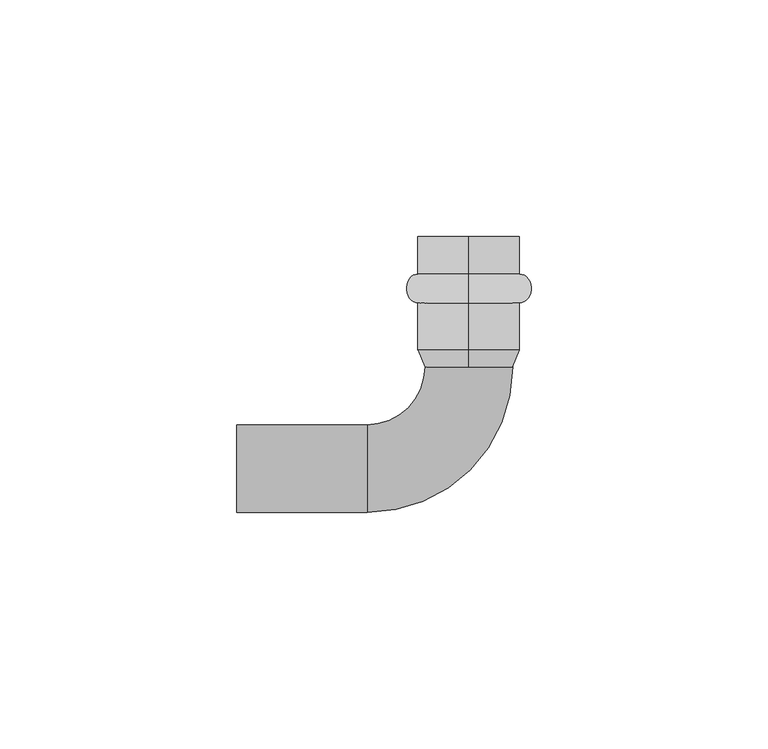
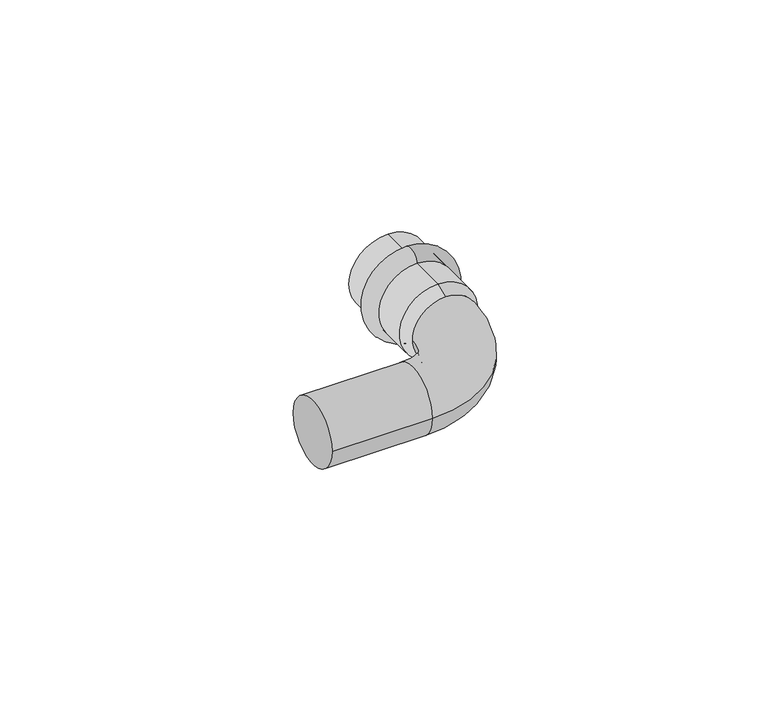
"""IFC4 building model written with IfcOpenShell, lengths in millimetres: pipe fitting geometry, РЕХАУ_Пресс Отвод-вставка : 18 x 90°."""

import ifcopenshell
import ifcopenshell.guid

model = None  # the IFC model being written
_history = None  # IfcOwnerHistory: only IFC2X3 demands one
_inside = {}  # id of a spatial element -> (the spatial element, [elements in it])
_under = {}  # id of a project, library or spatial element -> (it, [spatial elements below it])
_declared = {}  # id of a project -> (the project, [libraries it declares])
_typed = {}  # id of a type object -> (the type object, [elements of that type])
_made_of = {}  # id of a material, layer set ... -> (it, [elements and type objects made of it])


def new_model(schema):
    """Start an empty IFC model of exactly this schema.

    Asked for "IFC4X3", IfcOpenShell would pick the latest addendum, in which some entities
    have other attributes; the version numbers below select the first issue.
    IFC2X3 requires an IfcOwnerHistory on every rooted entity: one is made here for all.
    """
    global model, _history
    if schema == "IFC4X3":
        model = ifcopenshell.file(schema_version=(4, 3, 0, 0))
    else:
        model = ifcopenshell.file(schema=schema)
    _inside.clear()
    _under.clear()
    _declared.clear()
    _typed.clear()
    _made_of.clear()
    _history = None
    if model.schema == "IFC2X3":
        org = make("IfcOrganization", Name="unknown")
        user = make(
            "IfcPersonAndOrganization",
            ThePerson=make("IfcPerson", FamilyName="unknown"),
            TheOrganization=org,
        )
        app = make(
            "IfcApplication",
            ApplicationDeveloper=org,
            Version="unknown",
            ApplicationFullName="unknown",
            ApplicationIdentifier="unknown",
        )
        _history = make(
            "IfcOwnerHistory",
            OwningUser=user,
            OwningApplication=app,
            ChangeAction="ADDED",
            CreationDate=0,
        )
    return model


def make(cls, **values):
    """One entity of the class cls with the attributes given. An attribute that is None is left unset."""
    return model.create_entity(
        cls, **{name: value for name, value in values.items() if value is not None}
    )


def rooted(cls, **values):
    """An entity with a GlobalId (a new one), such as an element, a storey or a relation."""
    return make(cls, GlobalId=ifcopenshell.guid.new(), OwnerHistory=_history, **values)


def si_unit(unit_type, name, prefix=None):
    """IfcSIUnit, for example si_unit("LENGTHUNIT", "METRE", prefix="MILLI")."""
    return make("IfcSIUnit", UnitType=unit_type, Prefix=prefix, Name=name)


def assignment(units):
    """IfcUnitAssignment: the units of a project."""
    return None if units is None else make("IfcUnitAssignment", Units=units)


def point(xyz):
    """IfcCartesianPoint."""
    return None if xyz is None else make("IfcCartesianPoint", Coordinates=xyz)


def direction(xyz):
    """IfcDirection."""
    return None if xyz is None else make("IfcDirection", DirectionRatios=xyz)


def frame(location, z_axis=None, x_axis=None):
    """IfcAxis2Placement3D, a coordinate frame: its origin and axes. An axis left out is left unset."""
    return make(
        "IfcAxis2Placement3D",
        Location=point(location),
        Axis=direction(z_axis),
        RefDirection=direction(x_axis),
    )


def origin():
    """The frame at (0, 0, 0) with its axes left unset."""
    return frame((0.0, 0.0, 0.0))


def place(relative_to, where):
    """IfcLocalPlacement: puts the frame where relative to a parent placement (None: the world)."""
    return make(
        "IfcLocalPlacement", PlacementRelTo=relative_to, RelativePlacement=where
    )


def context(
    kind, dimensions, precision=None, world=None, true_north=None, identifier=None
):
    """IfcGeometricRepresentationContext, for example the 3D "Model" context."""
    return make(
        "IfcGeometricRepresentationContext",
        ContextIdentifier=identifier,
        ContextType=kind,
        CoordinateSpaceDimension=dimensions,
        Precision=precision,
        WorldCoordinateSystem=world,
        TrueNorth=true_north,
    )


def project(units=None, contexts=None):
    """IfcProject with its units and contexts."""
    return rooted(
        "IfcProject",
        Name="project",
        RepresentationContexts=contexts,
        UnitsInContext=assignment(units),
    )


def spatial(cls, under=None, at=None, **own):
    """A site, building, storey or space (cls), placed at a placement, below another one or the project."""
    s = rooted(cls, ObjectPlacement=at, **own)
    if under is not None:
        _under.setdefault(under.id(), (under, []))[1].append(s)
    return s


def polyline(points):
    """IfcPolyline through the points."""
    return make("IfcPolyline", Points=[point(p) for p in points])


def circle_curve(where, radius):
    """IfcCircle in the frame where."""
    return make("IfcCircle", Position=where, Radius=radius)


def ellipse_curve(where, semi_axis1, semi_axis2):
    """IfcEllipse in the frame where."""
    return make(
        "IfcEllipse", Position=where, SemiAxis1=semi_axis1, SemiAxis2=semi_axis2
    )


def trimmed(basis, trim1, trim2, sense, master):
    """IfcTrimmedCurve: the piece of a basis curve between two trims."""
    return make(
        "IfcTrimmedCurve",
        BasisCurve=basis,
        Trim1=trim1,
        Trim2=trim2,
        SenseAgreement=sense,
        MasterRepresentation=master,
    )


def shape(context_of_items, identifier, shape_type, items):
    """IfcShapeRepresentation: the items that make up one representation, for example the "Body"."""
    return make(
        "IfcShapeRepresentation",
        ContextOfItems=context_of_items,
        RepresentationIdentifier=identifier,
        RepresentationType=shape_type,
        Items=items,
    )


def source(mapping_origin, context_of_items, identifier, shape_type, items):
    """IfcRepresentationMap: a shape defined once, which mapped items show again and again."""
    return make(
        "IfcRepresentationMap",
        MappingOrigin=mapping_origin,
        MappedRepresentation=shape(context_of_items, identifier, shape_type, items),
    )


def transform(
    local_origin,
    x_axis=None,
    y_axis=None,
    z_axis=None,
    scale=None,
    scale2=None,
    scale3=None,
    uniform=True,
):
    """IfcCartesianTransformationOperator3D, or its non-uniform kind. x_axis, y_axis, z_axis: its Axis1, 2, 3."""
    if uniform:
        return make(
            "IfcCartesianTransformationOperator3D",
            Axis1=direction(x_axis),
            Axis2=direction(y_axis),
            LocalOrigin=point(local_origin),
            Scale=scale,
            Axis3=direction(z_axis),
        )
    return make(
        "IfcCartesianTransformationOperator3DnonUniform",
        Axis1=direction(x_axis),
        Axis2=direction(y_axis),
        LocalOrigin=point(local_origin),
        Scale=scale,
        Axis3=direction(z_axis),
        Scale2=scale2,
        Scale3=scale3,
    )


def mapped(mapping_source, mapping_target):
    """IfcMappedItem: shows the shape of a source again, moved by a transform."""
    return make(
        "IfcMappedItem", MappingSource=mapping_source, MappingTarget=mapping_target
    )


def made_of(thing, what):
    """Note that an element or type object is made of a material, layer set ...; save() writes the relation."""
    if what is not None:
        _made_of.setdefault(what.id(), (what, []))[1].append(thing)
    return thing


def element(
    cls,
    number,
    at=None,
    inside=None,
    cuts=None,
    type_object=None,
    material=None,
    context=None,
    identifier="Body",
    shape_type=None,
    held_by="IfcProductDefinitionShape",
    body=None,
    shapes=None,
    **own,
):
    """One element of the class cls, such as IfcWall. Its Tag is "e" and its number.

    at: its placement. inside: the storey or other place that contains it. cuts: it is an
    opening in that element (IfcRelVoidsElement). A single representation is given by context,
    identifier, shape_type and body (its items); several are given by shapes. held_by: the class
    of the entity that holds the representations. save() writes the other relations.
    """
    e = rooted(cls, Tag="e%d" % number, ObjectPlacement=at, **own)
    if body is not None:
        shapes = [shape(context, identifier, shape_type, body)]
    if shapes is not None:
        e.Representation = make(held_by, Representations=shapes)
    if inside is not None:
        _inside.setdefault(inside.id(), (inside, []))[1].append(e)
    if cuts is not None:
        rooted(
            "IfcRelVoidsElement", RelatingBuildingElement=cuts, RelatedOpeningElement=e
        )
    if type_object is not None:
        _typed.setdefault(type_object.id(), (type_object, []))[1].append(e)
    return made_of(e, material)


def aggregate(whole, parts):
    """IfcRelAggregates: a whole, such as a stair, and the parts it consists of."""
    return rooted("IfcRelAggregates", RelatingObject=whole, RelatedObjects=parts)


def save(model, path):
    """Write the relations noted so far, then the file.

    IfcRelAggregates (storeys below a building ...), IfcRelContainedInSpatialStructure (elements
    in a storey), IfcRelDefinesByType, IfcRelAssociatesMaterial and IfcRelDeclares: one each for
    every whole, place, type object, material and project.
    """
    for whole, parts in _under.values():
        aggregate(whole, parts)
    for where, things in _inside.values():
        rooted(
            "IfcRelContainedInSpatialStructure",
            RelatedElements=things,
            RelatingStructure=where,
        )
    for kind, things in _typed.values():
        rooted("IfcRelDefinesByType", RelatedObjects=things, RelatingType=kind)
    for what, things in _made_of.values():
        rooted("IfcRelAssociatesMaterial", RelatedObjects=things, RelatingMaterial=what)
    for by, libraries in _declared.values():
        rooted("IfcRelDeclares", RelatingContext=by, RelatedDefinitions=libraries)
    model.write(path)


def plane_surface(at):
    """IfcPlane: the flat surface through the origin of the frame at, square to its z axis."""
    return make("IfcPlane", Position=at)


def cylinder_surface(at, radius):
    """IfcCylindricalSurface: all points at the distance radius from the z axis of the frame at."""
    return make("IfcCylindricalSurface", Position=at, Radius=radius)


def revolved_surface(curve, axis_point, axis_direction):
    """IfcSurfaceOfRevolution: the curve turned about the line through axis_point along axis_direction."""
    return make(
        "IfcSurfaceOfRevolution",
        SweptCurve=make("IfcArbitraryOpenProfileDef", ProfileType="CURVE", Curve=curve),
        AxisPosition=make("IfcAxis1Placement", Location=point(axis_point), Axis=direction(axis_direction)),
    )


def advanced_brep(points, edges, surfaces, faces):
    """IfcAdvancedBrep: a solid bounded by faces that lie on surfaces and meet in shared edges.

    An edge is (start, end): straight between two places in points (the first is 0);
    or (start, end, curve); or (start, end, curve, False) where it runs against its curve.
    A face is (place in surfaces, loops), or (place, loops, False) where it looks against
    its surface's normal. A loop lists edges by number (the first is 1), with a minus sign
    where the edge is run from its end to its start. The first loop is the outer one.
    """
    corners = [point(p) for p in points]
    vertices = [make("IfcVertexPoint", VertexGeometry=c) for c in corners]
    made = []
    for start, end, *more in edges:
        made.append(
            make(
                "IfcEdgeCurve",
                EdgeStart=vertices[start],
                EdgeEnd=vertices[end],
                EdgeGeometry=more[0] if more else make("IfcPolyline", Points=[corners[start], corners[end]]),
                SameSense=more[1] if len(more) > 1 else True,
            )
        )
    hull = []
    for where, loops, *sense in faces:
        bounds = []
        for j, loop in enumerate(loops):
            ring = [make("IfcOrientedEdge", EdgeElement=made[abs(k) - 1], Orientation=k > 0) for k in loop]
            bounds.append(
                make(
                    "IfcFaceOuterBound" if j == 0 else "IfcFaceBound",
                    Bound=make("IfcEdgeLoop", EdgeList=ring),
                    Orientation=True,
                )
            )
        hull.append(make("IfcAdvancedFace", Bounds=bounds, FaceSurface=surfaces[where], SameSense=sense[0] if sense else True))
    return make("IfcAdvancedBrep", Outer=make("IfcClosedShell", CfsFaces=hull))


def pipe_fitting_5858ae5b(model_context):
    return source(origin(), model_context, "Body", "AdvancedBrep", [
        advanced_brep(
        [(49.0, 41.1, 10.75), (49.0, 41.1, -10.75), (49.0, 35.0, -10.75), (49.0, 35.0, 10.75)],
        [
            (0, 1, circle_curve(frame((49.0, 41.1, 0.0), z_axis=(0.0, 1.0, 0.0), x_axis=(0.0, 0.0, -1.0)), 10.75)),
            (1, 2),
            (2, 3, circle_curve(frame((49.0, 35.0, 0.0), z_axis=(0.0, -1.0, 0.0), x_axis=(0.0, 0.0, -1.0)), 10.75)),
            (3, 0),
            (1, 0, circle_curve(frame((49.0, 41.1, 0.0), z_axis=(0.0, 1.0, 0.0), x_axis=(0.0, 0.0, -1.0)), 10.75)),
            (3, 2, circle_curve(frame((49.0, 35.0, 0.0), z_axis=(0.0, -1.0, 0.0), x_axis=(0.0, 0.0, -1.0)), 10.75)),
            (2, 1, ellipse_curve(frame((49.0, 38.05, -10.75), z_axis=(1.0, 0.0, 0.0), x_axis=(0.0, 1.0, 0.0)), 3.05, 2.5)),
            (0, 3, ellipse_curve(frame((49.0, 38.05, 10.75), z_axis=(1.0, 0.0, 0.0), x_axis=(0.0, 1.0, 0.0)), 3.05, 2.5)),
        ],
        [
            revolved_surface(polyline([(49.0, 35.0, -10.75), (49.0, 41.1, -10.75)]), (49.0, 22.0, 0.0), (0.0, -1.0, 0.0)),
            revolved_surface(trimmed(ellipse_curve(frame((49.0, 38.05, -10.75), z_axis=(-1.0, 0.0, 0.0), x_axis=(0.0, 1.0, 0.0)), 3.05, 2.5), [point((49.0, 41.1, -10.75))], [point((49.0, 35.0, -10.75))], True, "CARTESIAN"), (49.0, 22.0, 0.0), (0.0, -1.0, 0.0)),
        ],
        [
            (0, [[1, 2, 3, 4]]),
            (0, [[5, -4, 6, -2]]),
            (1, [[-3, 7, -1, 8]]),
            (1, [[-6, -8, -5, -7]]),
        ],
    ),
        advanced_brep(
        [(49.0, 21.4662215, 9.25), (49.0, 21.4662215, -9.25), (49.0, 25.0, -10.75), (49.0, 25.0, 10.75), (49.0, 49.0, 9.25), (49.0, 49.0, -9.25), (49.0, 49.0, 10.75), (49.0, 49.0, -10.75)],
        [
            (0, 1, circle_curve(frame((49.0, 21.4662215, 0.0), z_axis=(0.0, 1.0, 0.0), x_axis=(0.0, 0.0, -1.0)), 9.25)),
            (1, 2),
            (2, 3, circle_curve(frame((49.0, 25.0, 0.0), z_axis=(0.0, -1.0, 0.0), x_axis=(0.0, 0.0, -1.0)), 10.75)),
            (3, 0),
            (1, 0, circle_curve(frame((49.0, 21.4662215, 0.0), z_axis=(0.0, 1.0, 0.0), x_axis=(0.0, 0.0, -1.0)), 9.25)),
            (3, 2, circle_curve(frame((49.0, 25.0, 0.0), z_axis=(0.0, -1.0, 0.0), x_axis=(0.0, 0.0, -1.0)), 10.75)),
            (4, 5, circle_curve(frame((49.0, 49.0, 0.0), z_axis=(0.0, 1.0, 0.0), x_axis=(0.0, 0.0, -1.0)), 9.25)),
            (5, 1),
            (0, 4),
            (5, 4, circle_curve(frame((49.0, 49.0, 0.0), z_axis=(0.0, 1.0, 0.0), x_axis=(0.0, 0.0, -1.0)), 9.25)),
            (6, 7, circle_curve(frame((49.0, 49.0, 0.0), z_axis=(0.0, 1.0, 0.0), x_axis=(0.0, 0.0, -1.0)), 10.75)),
            (7, 5),
            (4, 6),
            (7, 6, circle_curve(frame((49.0, 49.0, 0.0), z_axis=(0.0, 1.0, 0.0), x_axis=(0.0, 0.0, -1.0)), 10.75)),
            (2, 7),
            (6, 3),
        ],
        [
            revolved_surface(polyline([(49.0, 25.0, -10.75), (49.0, 21.4662215, -9.25)]), (49.0, 22.0, 0.0), (0.0, -1.0, 0.0)),
            revolved_surface(polyline([(49.0, 21.4662215, -9.25), (49.0, 49.0, -9.25)]), (49.0, 22.0, 0.0), (0.0, -1.0, 0.0)),
            plane_surface(frame((49.0, 49.0, 0.0), z_axis=(0.0, 1.0, 0.0), x_axis=(0.0, 0.0, -1.0))),
            cylinder_surface(frame((49.0, 22.0, 0.0), z_axis=(0.0, -1.0, 0.0), x_axis=(0.0, 0.0, -1.0)), 10.75),
        ],
        [
            (0, [[1, 2, 3, 4]]),
            (0, [[5, -4, 6, -2]]),
            (1, [[7, 8, -1, 9]]),
            (1, [[10, -9, -5, -8]]),
            (2, [[11, 12, -7, 13]]),
            (2, [[14, -13, -10, -12]]),
            (3, [[-3, 15, -11, 16]]),
            (3, [[-6, -16, -14, -15]]),
        ],
    ),
        advanced_brep(
        [(0.0, -9.25, 0.0), (0.0, 9.25, 0.0), (27.5337785, -9.25, 0.0), (27.5337785, 9.25, 0.0), (39.75, 21.4662215, 0.0), (58.25, 21.4662215, 0.0), (58.25, 25.0, 0.0), (39.75, 25.0, 0.0)],
        [
            (0, 1, circle_curve(frame((0.0, 0.0, 0.0), z_axis=(-1.0, 0.0, 0.0), x_axis=(0.0, 1.0, 0.0)), 9.25)),
            (1, 0, circle_curve(frame((0.0, 0.0, 0.0), z_axis=(-1.0, 0.0, 0.0), x_axis=(0.0, 1.0, 0.0)), 9.25)),
            (0, 2),
            (2, 3, circle_curve(frame((27.5337785, 0.0, 0.0), z_axis=(-1.0, 0.0, 0.0), x_axis=(0.0, 1.0, 0.0)), 9.25)),
            (3, 1),
            (3, 2, circle_curve(frame((27.5337785, 0.0, 0.0), z_axis=(-1.0, 0.0, 0.0), x_axis=(0.0, 1.0, 0.0)), 9.25)),
            (4, 3, circle_curve(frame((27.5337785, 21.4662215, 0.0), z_axis=(0.0, 0.0, -1.0), x_axis=(0.0, -1.0, 0.0)), 12.2162215)),
            (2, 5, circle_curve(frame((27.5337785, 21.4662215, 0.0), z_axis=(0.0, 0.0, 1.0), x_axis=(0.0, -1.0, 0.0)), 30.7162215)),
            (5, 4, circle_curve(frame((49.0, 21.4662215, 0.0), z_axis=(0.0, -1.0, 0.0), x_axis=(-1.0, 0.0, 0.0)), 9.25)),
            (4, 5, circle_curve(frame((49.0, 21.4662215, 0.0), z_axis=(0.0, -1.0, 0.0), x_axis=(-1.0, 0.0, 0.0)), 9.25)),
            (6, 7, circle_curve(frame((49.0, 25.0, 0.0), z_axis=(0.0, 1.0, 0.0), x_axis=(-1.0, 0.0, 0.0)), 9.25)),
            (7, 6, circle_curve(frame((49.0, 25.0, 0.0), z_axis=(0.0, 1.0, 0.0), x_axis=(-1.0, 0.0, 0.0)), 9.25)),
            (5, 6),
            (7, 4),
        ],
        [
            plane_surface(frame((0.0, 0.0, 0.0), z_axis=(-1.0, 0.0, 0.0), x_axis=(0.0, 0.0, 1.0))),
            cylinder_surface(frame((0.0, 0.0, 0.0), z_axis=(-1.0, 0.0, 0.0), x_axis=(0.0, 1.0, 0.0)), 9.25),
            revolved_surface(trimmed(ellipse_curve(frame((27.5337785, 0.0, 0.0), z_axis=(-1.0, 0.0, 0.0), x_axis=(0.0, 1.0, 0.0)), 9.25, 9.25), [point((27.5337785, -9.25, 0.0))], [point((27.5337785, 9.25, 0.0))], True, "CARTESIAN"), (27.5337785, 21.4662215, 0.0), (0.0, 0.0, 1.0)),
            revolved_surface(trimmed(ellipse_curve(frame((27.5337785, 0.0, 0.0), z_axis=(-1.0, 0.0, 0.0), x_axis=(0.0, 1.0, 0.0)), 9.25, 9.25), [point((27.5337785, 9.25, 0.0))], [point((27.5337785, -9.25, 0.0))], True, "CARTESIAN"), (27.5337785, 21.4662215, 0.0), (0.0, 0.0, 1.0)),
            plane_surface(frame((49.0, 25.0, 0.0), z_axis=(0.0, 1.0, 0.0), x_axis=(0.0, 0.0, 1.0))),
            cylinder_surface(frame((49.0, 21.4662215, 0.0), z_axis=(0.0, -1.0, 0.0), x_axis=(-1.0, 0.0, 0.0)), 9.25),
        ],
        [
            (0, [[1, 2]]),
            (1, [[-1, 3, 4, 5]]),
            (1, [[-2, -5, 6, -3]]),
            (2, [[7, -4, 8, 9]]),
            (3, [[-8, -6, -7, 10]]),
            (4, [[11, 12]]),
            (5, [[-9, 13, -12, 14]]),
            (5, [[-10, -14, -11, -13]]),
        ],
    ),
    ])


if __name__ == "__main__":
    model = new_model("IFC4")
    model_context = context("Model", 3, world=origin())
    ifc_project = project(units=[si_unit("LENGTHUNIT", "METRE", prefix="MILLI")], contexts=[model_context])
    site = spatial("IfcSite", under=ifc_project)
    building = spatial("IfcBuilding", under=site)
    placement = place(None, origin())
    pipe_fitting_shape = pipe_fitting_5858ae5b(model_context)
    element("IfcPipeFitting", 1, ObjectType="РЕХАУ_Пресс Отвод-вставка : 18 x 90°", at=placement, inside=building, context=model_context, shape_type="MappedRepresentation", body=[
        mapped(pipe_fitting_shape, transform((0.0, 0.0, 0.0), x_axis=(1.0, 0.0, 0.0), y_axis=(0.0, 1.0, 0.0), z_axis=(0.0, 0.0, 1.0))),
    ])
    save(model, "model.ifc")
